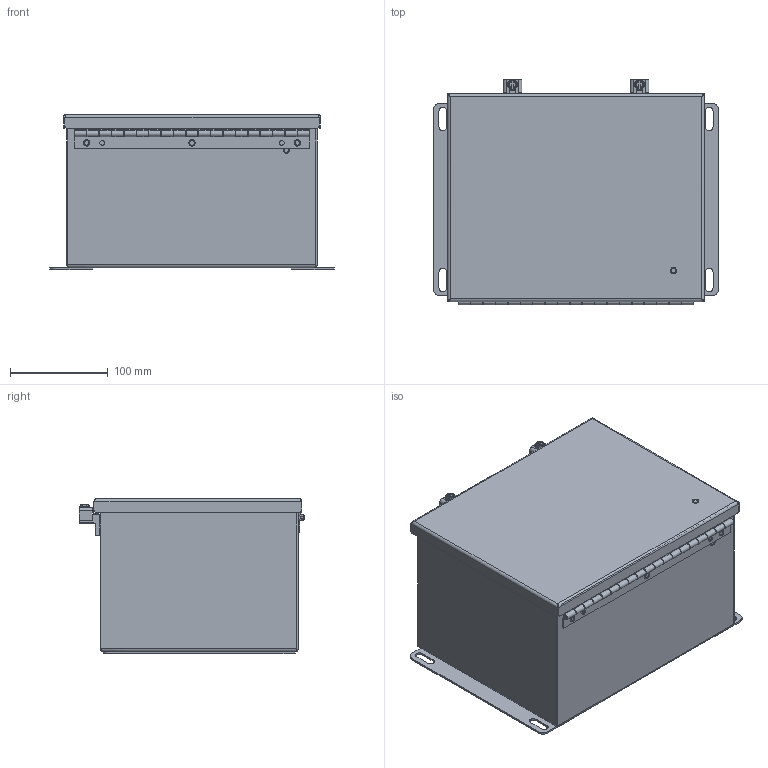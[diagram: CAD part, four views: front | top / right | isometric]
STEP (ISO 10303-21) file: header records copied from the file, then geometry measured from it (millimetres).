
FILE_DESCRIPTION((''),'2;1');
FILE_NAME('MODEL-332_ASM','2024-11-18T14:20:42',('joshi'),('SAGINAW CONTROL & ENGINEERING'),'CREO PARAMETRIC BY PTC INC, 2021284','CREO PARAMETRIC BY PTC INC, 2021284','');
FILE_SCHEMA(('AUTOMOTIVE_DESIGN { 1 0 10303 214 1 1 1 1 }'));
Length unit declared in the file: inch
Products named in the file (22): MODEL-332-BDY; MODEL-332-DR; 100097; 100012; 125828-BASE; 125828-PEM-STUD; 125828-CLAMP; 125828-BOLT; 125828_ASM; 100897; 102202; 122255; MODEL-332-HNG-PN; MODEL-332-HNG-BX; MODEL-332-HNG-DR; 100067; MODEL-332-HNG_ASM; MODEL-332-GSKT; CH-ELJ_SUBPANEL; 102479; CH-ELJ_SUBPANEL-SUBASSEMBLY_ASM; MODEL-332_ASM
Assembly tree (36 placements, depth 3):
  MODEL-332_ASM
    MODEL-332-BDY
    MODEL-332-DR
    100097  x2
    100012  x4
    125828_ASM  x2
      125828-BASE
      125828-PEM-STUD
      125828-CLAMP
      125828-BOLT
    100897  x5
    102202  x2
    122255
    MODEL-332-HNG_ASM
      MODEL-332-HNG-PN
      MODEL-332-HNG-BX
      MODEL-332-HNG-DR
      100067  x3
    MODEL-332-GSKT
    CH-ELJ_SUBPANEL-SUBASSEMBLY_ASM
      CH-ELJ_SUBPANEL
      102479  x4
Bounding box: 292.1 x 231.25 x 159.13 mm (x, y, z)
Volume: 578925.2 mm3; surface area: 710371.4 mm2
Topology: 35 solids, 35 shells, 1803 faces, 4444 edges, 2664 vertices
Faces by surface type: plane 779, cylinder 594, bspline 214, torus 110, sphere 56, cone 50
Entity records: 54933 total; most frequent: CARTESIAN_POINT 18679, ORIENTED_EDGE 5146, DIRECTION 5041, PRESENTATION_STYLE_ASSIGNMENT 2590, STYLED_ITEM 2590, CURVE_STYLE 2573, EDGE_CURVE 2573, AXIS2_PLACEMENT_3D 1756
